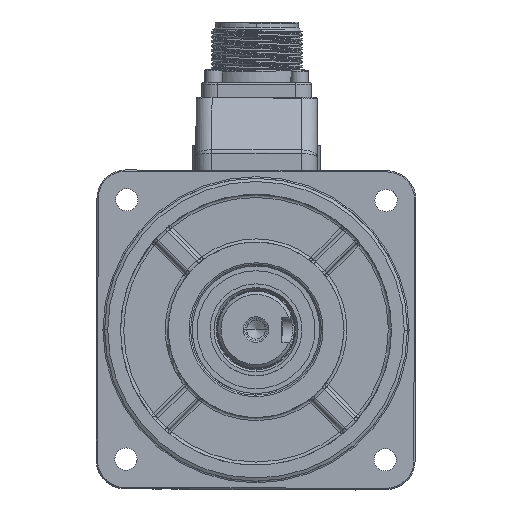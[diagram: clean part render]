
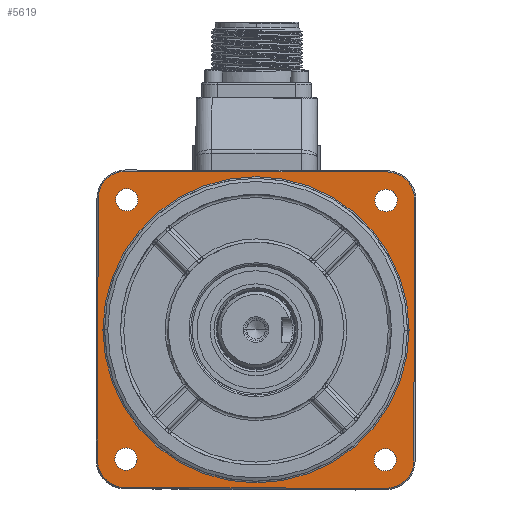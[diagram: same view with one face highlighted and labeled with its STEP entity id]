
A CAD part, top view. The second image highlights one B-rep face of the part: STEP entity #5619.
In plain terms, the highlighted planar face has unit normal (0, 0, 1) as drawn and (0, 1, 0) by its records, which use the part's own axes.
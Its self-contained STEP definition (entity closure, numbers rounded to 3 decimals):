
#150=CARTESIAN_POINT('',(0.,0.,0.));
#151=DIRECTION('',(0.,-1.,0.));
#152=DIRECTION('',(-1.,0.,0.005));
#153=AXIS2_PLACEMENT_3D('',#150,#151,#152);
#170=CARTESIAN_POINT('',(0.,0.,0.));
#171=DIRECTION('',(0.,-1.,0.));
#172=DIRECTION('',(1.,0.,-0.005));
#173=AXIS2_PLACEMENT_3D('',#170,#171,#172);
#175=CARTESIAN_POINT('',(-41.,0.,-41.));
#176=DIRECTION('',(0.,-1.,0.));
#177=DIRECTION('',(-1.,0.,0.));
#178=AXIS2_PLACEMENT_3D('',#175,#176,#177);
#180=CARTESIAN_POINT('',(41.,0.,-41.));
#181=DIRECTION('',(0.,-1.,0.));
#182=DIRECTION('',(0.,0.,-1.));
#183=AXIS2_PLACEMENT_3D('',#180,#181,#182);
#185=CARTESIAN_POINT('',(41.,0.,41.));
#186=DIRECTION('',(0.,-1.,0.));
#187=DIRECTION('',(1.,0.,0.));
#188=AXIS2_PLACEMENT_3D('',#185,#186,#187);
#190=CARTESIAN_POINT('',(-41.,0.,41.));
#191=DIRECTION('',(0.,-1.,0.));
#192=DIRECTION('',(0.,0.,1.));
#193=AXIS2_PLACEMENT_3D('',#190,#191,#192);
#195=CARTESIAN_POINT('',(-40.659,0.,-40.659));
#196=DIRECTION('',(0.,1.,0.));
#197=DIRECTION('',(0.,0.,1.));
#198=AXIS2_PLACEMENT_3D('',#195,#196,#197);
#200=CARTESIAN_POINT('',(-40.659,0.,-40.659));
#201=DIRECTION('',(0.,1.,0.));
#202=DIRECTION('',(0.,0.,-1.));
#203=AXIS2_PLACEMENT_3D('',#200,#201,#202);
#205=CARTESIAN_POINT('',(-40.659,0.,40.659));
#206=DIRECTION('',(0.,1.,0.));
#207=DIRECTION('',(1.,0.,0.));
#208=AXIS2_PLACEMENT_3D('',#205,#206,#207);
#210=CARTESIAN_POINT('',(-40.659,0.,40.659));
#211=DIRECTION('',(0.,1.,0.));
#212=DIRECTION('',(-1.,0.,0.));
#213=AXIS2_PLACEMENT_3D('',#210,#211,#212);
#215=CARTESIAN_POINT('',(40.659,0.,40.659));
#216=DIRECTION('',(0.,1.,0.));
#217=DIRECTION('',(0.,0.,-1.));
#218=AXIS2_PLACEMENT_3D('',#215,#216,#217);
#220=CARTESIAN_POINT('',(40.659,0.,40.659));
#221=DIRECTION('',(0.,1.,0.));
#222=DIRECTION('',(0.,0.,1.));
#223=AXIS2_PLACEMENT_3D('',#220,#221,#222);
#225=CARTESIAN_POINT('',(0.,0.,0.));
#226=DIRECTION('',(0.,1.,0.));
#227=DIRECTION('',(-1.,0.,0.005));
#228=AXIS2_PLACEMENT_3D('',#225,#226,#227);
#230=CARTESIAN_POINT('',(0.,0.,0.));
#231=DIRECTION('',(0.,1.,0.));
#232=DIRECTION('',(1.,0.,-0.005));
#233=AXIS2_PLACEMENT_3D('',#230,#231,#232);
#235=CARTESIAN_POINT('',(40.659,0.,-40.659));
#236=DIRECTION('',(0.,1.,0.));
#237=DIRECTION('',(-1.,0.,0.));
#238=AXIS2_PLACEMENT_3D('',#235,#236,#237);
#240=CARTESIAN_POINT('',(40.659,0.,-40.659));
#241=DIRECTION('',(0.,1.,0.));
#242=DIRECTION('',(1.,0.,0.));
#243=AXIS2_PLACEMENT_3D('',#240,#241,#242);
#254=DIRECTION('',(0.,0.,1.));
#255=VECTOR('',#254,82.);
#256=CARTESIAN_POINT('',(-49.6,0.,
-41.));
#257=LINE('',#256,#255);
#271=DIRECTION('',(1.,0.,0.));
#272=VECTOR('',#271,82.);
#273=CARTESIAN_POINT('',(-41.,0.,
49.6));
#274=LINE('',#273,#272);
#288=DIRECTION('',(0.,0.,-1.));
#289=VECTOR('',#288,82.);
#290=CARTESIAN_POINT('',(49.6,0.,41.));
#291=LINE('',#290,#289);
#305=DIRECTION('',(-1.,0.,0.));
#306=VECTOR('',#305,82.);
#307=CARTESIAN_POINT('',(41.,0.,
-49.6));
#308=LINE('',#307,#306);
#4359=CARTESIAN_POINT('',(48.,0.,0.));
#4360=VERTEX_POINT('',#4359);
#4361=CARTESIAN_POINT('',(-47.999,0.,0.254));
#4362=VERTEX_POINT('',#4361);
#4363=CARTESIAN_POINT('',(-48.,0.,0.));
#4364=VERTEX_POINT('',#4363);
#4365=CARTESIAN_POINT('',(47.999,0.,-0.254));
#4366=VERTEX_POINT('',#4365);
#4367=CARTESIAN_POINT('',(-49.6,0.,-41.));
#4368=CARTESIAN_POINT('',(-41.,0.,-49.6));
#4369=VERTEX_POINT('',#4367);
#4370=VERTEX_POINT('',#4368);
#4371=CARTESIAN_POINT('',(41.,0.,
-49.6));
#4372=VERTEX_POINT('',#4371);
#4373=CARTESIAN_POINT('',(49.6,0.,-41.));
#4374=VERTEX_POINT('',#4373);
#4375=CARTESIAN_POINT('',(49.6,0.,
41.));
#4376=VERTEX_POINT('',#4375);
#4377=CARTESIAN_POINT('',(41.,0.,49.6));
#4378=VERTEX_POINT('',#4377);
#4379=CARTESIAN_POINT('',(-41.,0.,
49.6));
#4380=VERTEX_POINT('',#4379);
#4381=CARTESIAN_POINT('',(-49.6,0.,41.));
#4382=VERTEX_POINT('',#4381);
#4383=CARTESIAN_POINT('',(-40.659,0.,-37.159));
#4384=CARTESIAN_POINT('',(-40.659,0.,-44.159));
#4385=VERTEX_POINT('',#4383);
#4386=VERTEX_POINT('',#4384);
#4387=CARTESIAN_POINT('',(-37.159,0.,40.659));
#4388=CARTESIAN_POINT('',(-44.159,0.,40.659));
#4389=VERTEX_POINT('',#4387);
#4390=VERTEX_POINT('',#4388);
#4391=CARTESIAN_POINT('',(40.659,0.,37.159));
#4392=CARTESIAN_POINT('',(40.659,0.,44.159));
#4393=VERTEX_POINT('',#4391);
#4394=VERTEX_POINT('',#4392);
#4395=CARTESIAN_POINT('',(37.159,0.,-40.659));
#4396=CARTESIAN_POINT('',(44.159,0.,-40.659));
#4397=VERTEX_POINT('',#4395);
#4398=VERTEX_POINT('',#4396);
#5566=CARTESIAN_POINT('',(0.,0.,0.));
#5567=DIRECTION('',(0.,-1.,0.));
#5568=DIRECTION('',(-1.,0.,0.));
#5569=AXIS2_PLACEMENT_3D('',#5566,#5567,#5568);
#5570=PLANE('',#5569);
#5572=ORIENTED_EDGE('',*,*,#5571,.T.);
#5574=ORIENTED_EDGE('',*,*,#5573,.F.);
#5576=ORIENTED_EDGE('',*,*,#5575,.T.);
#5578=ORIENTED_EDGE('',*,*,#5577,.F.);
#5580=ORIENTED_EDGE('',*,*,#5579,.T.);
#5582=ORIENTED_EDGE('',*,*,#5581,.F.);
#5584=ORIENTED_EDGE('',*,*,#5583,.T.);
#5586=ORIENTED_EDGE('',*,*,#5585,.F.);
#5587=EDGE_LOOP('',(#5572,#5574,#5576,#5578,#5580,#5582,#5584,#5586));
#5588=FACE_OUTER_BOUND('',#5587,.F.);
#5590=ORIENTED_EDGE('',*,*,#5589,.T.);
#5592=ORIENTED_EDGE('',*,*,#5591,.T.);
#5593=EDGE_LOOP('',(#5590,#5592));
#5594=FACE_BOUND('',#5593,.F.);
#5596=ORIENTED_EDGE('',*,*,#5595,.T.);
#5598=ORIENTED_EDGE('',*,*,#5597,.T.);
#5599=EDGE_LOOP('',(#5596,#5598));
#5600=FACE_BOUND('',#5599,.F.);
#5602=ORIENTED_EDGE('',*,*,#5601,.T.);
#5604=ORIENTED_EDGE('',*,*,#5603,.T.);
#5605=EDGE_LOOP('',(#5602,#5604));
#5606=FACE_BOUND('',#5605,.F.);
#5607=ORIENTED_EDGE('',*,*,#5543,.F.);
#5608=ORIENTED_EDGE('',*,*,#5541,.T.);
#5609=ORIENTED_EDGE('',*,*,#5560,.F.);
#5610=ORIENTED_EDGE('',*,*,#5558,.T.);
#5611=EDGE_LOOP('',(#5607,#5608,#5609,#5610));
#5612=FACE_BOUND('',#5611,.F.);
#5614=ORIENTED_EDGE('',*,*,#5613,.T.);
#5616=ORIENTED_EDGE('',*,*,#5615,.T.);
#5617=EDGE_LOOP('',(#5614,#5616));
#5618=FACE_BOUND('',#5617,.F.);
#5619=ADVANCED_FACE('',(#5588,#5594,#5600,#5606,#5612,#5618),#5570,.F.);
#154=CIRCLE('',#153,48.);
#174=CIRCLE('',#173,48.);
#179=CIRCLE('',#178,8.6);
#184=CIRCLE('',#183,8.6);
#189=CIRCLE('',#188,8.6);
#194=CIRCLE('',#193,8.6);
#199=CIRCLE('',#198,3.5);
#204=CIRCLE('',#203,3.5);
#209=CIRCLE('',#208,3.5);
#214=CIRCLE('',#213,3.5);
#219=CIRCLE('',#218,3.5);
#224=CIRCLE('',#223,3.5);
#229=CIRCLE('',#228,48.);
#234=CIRCLE('',#233,48.);
#239=CIRCLE('',#238,3.5);
#244=CIRCLE('',#243,3.5);
#5541=EDGE_CURVE('',#4362,#4360,#229,.T.);
#5543=EDGE_CURVE('',#4362,#4364,#154,.T.);
#5558=EDGE_CURVE('',#4366,#4364,#234,.T.);
#5560=EDGE_CURVE('',#4366,#4360,#174,.T.);
#5571=EDGE_CURVE('',#4369,#4370,#179,.T.);
#5573=EDGE_CURVE('',#4372,#4370,#308,.T.);
#5575=EDGE_CURVE('',#4372,#4374,#184,.T.);
#5577=EDGE_CURVE('',#4376,#4374,#291,.T.);
#5579=EDGE_CURVE('',#4376,#4378,#189,.T.);
#5581=EDGE_CURVE('',#4380,#4378,#274,.T.);
#5583=EDGE_CURVE('',#4380,#4382,#194,.T.);
#5585=EDGE_CURVE('',#4369,#4382,#257,.T.);
#5589=EDGE_CURVE('',#4385,#4386,#199,.T.);
#5591=EDGE_CURVE('',#4386,#4385,#204,.T.);
#5595=EDGE_CURVE('',#4389,#4390,#209,.T.);
#5597=EDGE_CURVE('',#4390,#4389,#214,.T.);
#5601=EDGE_CURVE('',#4393,#4394,#219,.T.);
#5603=EDGE_CURVE('',#4394,#4393,#224,.T.);
#5613=EDGE_CURVE('',#4397,#4398,#239,.T.);
#5615=EDGE_CURVE('',#4398,#4397,#244,.T.);
